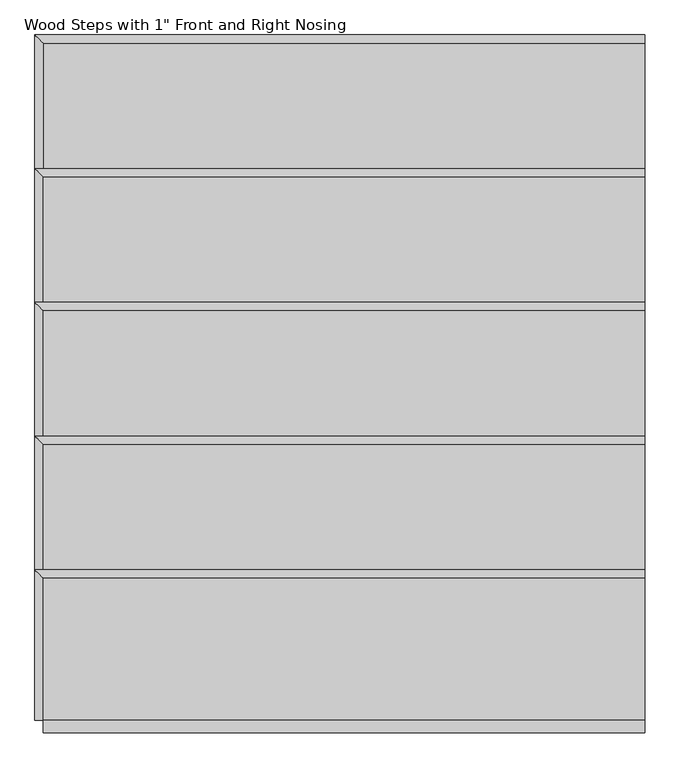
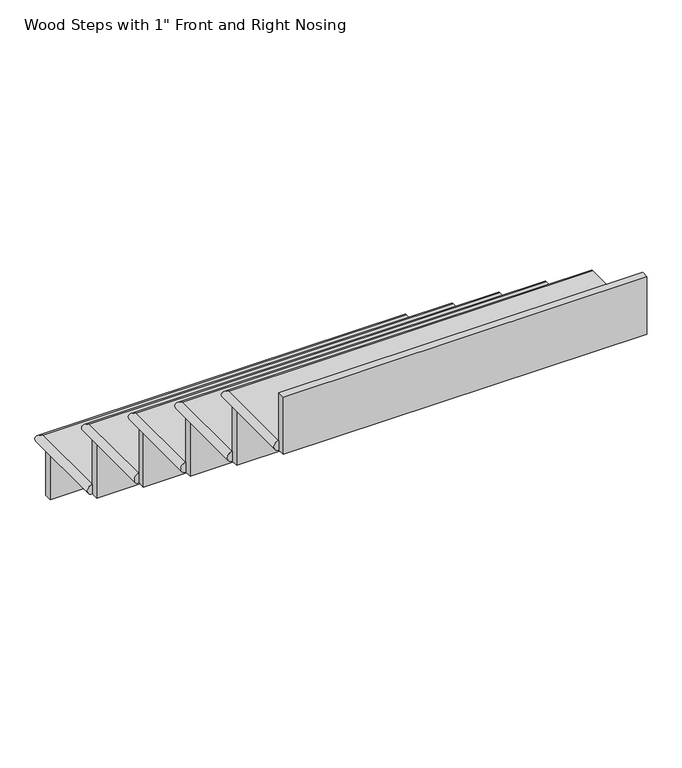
"""IFC4 building model written with IfcOpenShell, lengths in millimetres: stair flight geometry."""

from ifc_helpers import new_model, si_unit, frame, origin, place, context, project, spatial, circle_curve, ellipse_curve, faceted_brep, source, transform, mapped, element, save
from ifc_brep_helpers import plane_surface, cylinder_surface, advanced_brep


def stair_flight_c3c6c346(model_context):
    return source(origin(), model_context, "Body", "SolidModel", [
        advanced_brep(
        [(-6201.7730992, -1298.7952303, 1803.4), (-6201.7730992, -1298.7952303, 1828.8), (-6201.7730992, -1082.8952303, 1828.8), (-6201.7730992, -1082.8952303, 1803.4), (-5287.3730992, -1082.8952303, 1828.8), (-5287.3730992, -1082.8952303, 1803.4), (-5287.3730992, -1298.7952303, 1828.8), (-5287.3730992, -1298.7952303, 1803.4)],
        [
            (0, 1, circle_curve(frame((-6201.7730992, -1298.7952303, 1816.1), z_axis=(0.0, 1.0, 0.0), x_axis=(1.0, 0.0, 0.0)), 12.7)),
            (1, 2),
            (2, 3, ellipse_curve(frame((-6201.7730992, -1082.8952303, 1816.1), z_axis=(-0.7071067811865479, -0.7071067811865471, 0.0), x_axis=(0.7071067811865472, -0.7071067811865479, 0.0)), 17.9605122, 12.7)),
            (3, 0),
            (2, 4),
            (4, 5, circle_curve(frame((-5287.3730992, -1082.8952303, 1816.1), z_axis=(-1.0, 0.0, 0.0), x_axis=(0.0, -1.0, 0.0)), 12.7)),
            (5, 3),
            (6, 4),
            (1, 6),
            (5, 7),
            (7, 0),
            (6, 7),
        ],
        [
            cylinder_surface(frame((-6201.7730992, -1298.7952303, 1816.1), z_axis=(0.0, -1.0, 0.0), x_axis=(1.0, 0.0, 0.0)), 12.7),
            cylinder_surface(frame((-6201.7730992, -1082.8952303, 1816.1), z_axis=(-1.0, 0.0, 0.0), x_axis=(0.0, -1.0, 0.0)), 12.7),
            plane_surface(frame((-5287.3730992, -1070.1952303, 1828.8), z_axis=(0.0, 0.0, 1.0), x_axis=(0.0, 1.0, 0.0))),
            plane_surface(frame((-5287.3730992, -1070.1952303, 1803.4), z_axis=(0.0, 0.0, -1.0), x_axis=(0.0, -1.0, 0.0))),
            plane_surface(frame((-5287.3730992, -1298.7952303, 1828.8), z_axis=(1.0, 0.0, 0.0), x_axis=(0.0, 0.0, -1.0))),
            plane_surface(frame((-6201.7730992, -1298.7952303, 1828.8), z_axis=(0.0, -1.0, 0.0), x_axis=(0.0, 0.0, -1.0))),
        ],
        [
            (0, [[1, 2, 3, 4]]),
            (1, [[-3, 5, 6, 7]]),
            (2, [[8, -5, -2, 9]]),
            (3, [[10, 11, -4, -7]]),
            (4, [[-8, 12, -10, -6]]),
            (5, [[-9, -1, -11, -12]]),
        ],
    ),
        faceted_brep([(-6201.7730992, -1095.5952303, 1803.4), (-6201.7730992, -1095.5952303, 1676.4), (-6201.7730992, -1114.6452303, 1676.4), (-6201.7730992, -1114.6452303, 1803.4), (-5287.3730992, -1095.5952303, 1803.4), (-5287.3730992, -1114.6452303, 1803.4), (-5287.3730992, -1114.6452303, 1676.4), (-5287.3730992, -1095.5952303, 1676.4)], [[[0, 1, 2, 3]], [[4, 5, 6, 7]], [[1, 0, 4, 7]], [[2, 1, 7, 6]], [[3, 2, 6, 5]], [[0, 3, 5, 4]]]),
        faceted_brep([(-6201.7730992, -1298.7952303, 1955.8), (-6201.7730992, -1298.7952303, 1803.4), (-6201.7730992, -1317.8452303, 1803.4), (-6201.7730992, -1317.8452303, 1955.8), (-5287.3730992, -1298.7952303, 1955.8), (-5287.3730992, -1317.8452303, 1955.8), (-5287.3730992, -1317.8452303, 1803.4), (-5287.3730992, -1298.7952303, 1803.4)], [[[0, 1, 2, 3]], [[4, 5, 6, 7]], [[1, 0, 4, 7]], [[2, 1, 7, 6]], [[3, 2, 6, 5]], [[0, 3, 5, 4]]]),
        advanced_brep(
        [(-5287.3730992, -1501.9952303, 1981.2), (-5287.3730992, -1286.0952303, 1981.2), (-6201.7730992, -1286.0952303, 1981.2), (-6201.7730992, -1501.9952303, 1981.2), (-5287.3730992, -1286.0952303, 1955.8), (-5287.3730992, -1501.9952303, 1955.8), (-6201.7730992, -1501.9952303, 1955.8), (-6201.7730992, -1286.0952303, 1955.8)],
        [
            (0, 1),
            (1, 2),
            (2, 3),
            (3, 0),
            (4, 5),
            (5, 6),
            (6, 7),
            (7, 4),
            (0, 5),
            (4, 1, circle_curve(frame((-5287.3730992, -1286.0952303, 1968.5), z_axis=(1.0, 0.0, 0.0), x_axis=(0.0, -1.0, 0.0)), 12.7)),
            (3, 6, circle_curve(frame((-6201.7730992, -1501.9952303, 1968.5), z_axis=(0.0, -1.0, 0.0), x_axis=(1.0, 0.0, 0.0)), 12.7)),
            (2, 7, ellipse_curve(frame((-6201.7730992, -1286.0952303, 1968.5), z_axis=(-0.7071067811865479, -0.7071067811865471, 0.0), x_axis=(0.7071067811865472, -0.7071067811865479, 0.0)), 17.9605122, 12.7)),
        ],
        [
            plane_surface(frame((-5287.3730992, -1070.1952303, 1981.2), z_axis=(0.0, 0.0, 1.0), x_axis=(0.0, 1.0, 0.0))),
            plane_surface(frame((-5287.3730992, -1070.1952303, 1955.8), z_axis=(0.0, 0.0, -1.0), x_axis=(0.0, -1.0, 0.0))),
            plane_surface(frame((-5287.3730992, -1501.9952303, 1981.2), z_axis=(1.0, 0.0, 0.0), x_axis=(0.0, 0.0, -1.0))),
            plane_surface(frame((-6201.7730992, -1501.9952303, 1981.2), z_axis=(0.0, -1.0, 0.0), x_axis=(0.0, 0.0, -1.0))),
            cylinder_surface(frame((-6201.7730992, -1501.9952303, 1968.5), z_axis=(0.0, -1.0, 0.0), x_axis=(1.0, 0.0, 0.0)), 12.7),
            cylinder_surface(frame((-6201.7730992, -1286.0952303, 1968.5), z_axis=(-1.0, 0.0, 0.0), x_axis=(0.0, -1.0, 0.0)), 12.7),
        ],
        [
            (0, [[1, 2, 3, 4]]),
            (1, [[5, 6, 7, 8]]),
            (2, [[-1, 9, -5, 10]]),
            (3, [[-4, 11, -6, -9]]),
            (4, [[-11, -3, 12, -7]]),
            (5, [[-12, -2, -10, -8]]),
        ],
    ),
        faceted_brep([(-6201.7730992, -1501.9952303, 2108.2), (-6201.7730992, -1501.9952303, 1955.8), (-6201.7730992, -1521.0452303, 1955.8), (-6201.7730992, -1521.0452303, 2108.2), (-5287.3730992, -1501.9952303, 2108.2), (-5287.3730992, -1521.0452303, 2108.2), (-5287.3730992, -1521.0452303, 1955.8), (-5287.3730992, -1501.9952303, 1955.8)], [[[0, 1, 2, 3]], [[4, 5, 6, 7]], [[1, 0, 4, 7]], [[2, 1, 7, 6]], [[3, 2, 6, 5]], [[0, 3, 5, 4]]]),
        advanced_brep(
        [(-5287.3730992, -1705.1952303, 2133.6), (-5287.3730992, -1489.2952303, 2133.6), (-6201.7730992, -1489.2952303, 2133.6), (-6201.7730992, -1705.1952303, 2133.6), (-5287.3730992, -1489.2952303, 2108.2), (-5287.3730992, -1705.1952303, 2108.2), (-6201.7730992, -1705.1952303, 2108.2), (-6201.7730992, -1489.2952303, 2108.2)],
        [
            (0, 1),
            (1, 2),
            (2, 3),
            (3, 0),
            (4, 5),
            (5, 6),
            (6, 7),
            (7, 4),
            (0, 5),
            (4, 1, circle_curve(frame((-5287.3730992, -1489.2952303, 2120.9), z_axis=(1.0, 0.0, 0.0), x_axis=(0.0, -1.0, 0.0)), 12.7)),
            (3, 6, circle_curve(frame((-6201.7730992, -1705.1952303, 2120.9), z_axis=(0.0, -1.0, 0.0), x_axis=(1.0, 0.0, 0.0)), 12.7)),
            (2, 7, ellipse_curve(frame((-6201.7730992, -1489.2952303, 2120.9), z_axis=(-0.7071067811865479, -0.7071067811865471, 0.0), x_axis=(0.7071067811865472, -0.7071067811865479, 0.0)), 17.9605122, 12.7)),
        ],
        [
            plane_surface(frame((-5287.3730992, -1273.3952303, 2133.6), z_axis=(0.0, 0.0, 1.0), x_axis=(0.0, 1.0, 0.0))),
            plane_surface(frame((-5287.3730992, -1273.3952303, 2108.2), z_axis=(0.0, 0.0, -1.0), x_axis=(0.0, -1.0, 0.0))),
            plane_surface(frame((-5287.3730992, -1705.1952303, 2133.6), z_axis=(1.0, 0.0, 0.0), x_axis=(0.0, 0.0, -1.0))),
            plane_surface(frame((-6201.7730992, -1705.1952303, 2133.6), z_axis=(0.0, -1.0, 0.0), x_axis=(0.0, 0.0, -1.0))),
            cylinder_surface(frame((-6201.7730992, -1705.1952303, 2120.9), z_axis=(0.0, -1.0, 0.0), x_axis=(1.0, 0.0, 0.0)), 12.7),
            cylinder_surface(frame((-6201.7730992, -1489.2952303, 2120.9), z_axis=(-1.0, 0.0, 0.0), x_axis=(0.0, -1.0, 0.0)), 12.7),
        ],
        [
            (0, [[1, 2, 3, 4]]),
            (1, [[5, 6, 7, 8]]),
            (2, [[-1, 9, -5, 10]]),
            (3, [[-4, 11, -6, -9]]),
            (4, [[-11, -3, 12, -7]]),
            (5, [[-12, -2, -10, -8]]),
        ],
    ),
        faceted_brep([(-6201.7730992, -1705.1952303, 2260.6), (-6201.7730992, -1705.1952303, 2108.2), (-6201.7730992, -1724.2452303, 2108.2), (-6201.7730992, -1724.2452303, 2260.6), (-5287.3730992, -1705.1952303, 2260.6), (-5287.3730992, -1724.2452303, 2260.6), (-5287.3730992, -1724.2452303, 2108.2), (-5287.3730992, -1705.1952303, 2108.2)], [[[0, 1, 2, 3]], [[4, 5, 6, 7]], [[1, 0, 4, 7]], [[2, 1, 7, 6]], [[3, 2, 6, 5]], [[0, 3, 5, 4]]]),
        advanced_brep(
        [(-5287.3730992, -1908.3952303, 2286.0), (-5287.3730992, -1692.4952303, 2286.0), (-6201.7730992, -1692.4952303, 2286.0), (-6201.7730992, -1908.3952303, 2286.0), (-5287.3730992, -1692.4952303, 2260.6), (-5287.3730992, -1908.3952303, 2260.6), (-6201.7730992, -1908.3952303, 2260.6), (-6201.7730992, -1692.4952303, 2260.6)],
        [
            (0, 1),
            (1, 2),
            (2, 3),
            (3, 0),
            (4, 5),
            (5, 6),
            (6, 7),
            (7, 4),
            (0, 5),
            (4, 1, circle_curve(frame((-5287.3730992, -1692.4952303, 2273.3), z_axis=(1.0, 0.0, 0.0), x_axis=(0.0, -1.0, 0.0)), 12.7)),
            (3, 6, circle_curve(frame((-6201.7730992, -1908.3952303, 2273.3), z_axis=(0.0, -1.0, 0.0), x_axis=(1.0, 0.0, 0.0)), 12.7)),
            (2, 7, ellipse_curve(frame((-6201.7730992, -1692.4952303, 2273.3), z_axis=(-0.7071067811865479, -0.7071067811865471, 0.0), x_axis=(0.7071067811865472, -0.7071067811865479, 0.0)), 17.9605122, 12.7)),
        ],
        [
            plane_surface(frame((-5287.3730992, -1476.5952303, 2286.0), z_axis=(0.0, 0.0, 1.0), x_axis=(0.0, 1.0, 0.0))),
            plane_surface(frame((-5287.3730992, -1476.5952303, 2260.6), z_axis=(0.0, 0.0, -1.0), x_axis=(0.0, -1.0, 0.0))),
            plane_surface(frame((-5287.3730992, -1908.3952303, 2286.0), z_axis=(1.0, 0.0, 0.0), x_axis=(0.0, 0.0, -1.0))),
            plane_surface(frame((-6201.7730992, -1908.3952303, 2286.0), z_axis=(0.0, -1.0, 0.0), x_axis=(0.0, 0.0, -1.0))),
            cylinder_surface(frame((-6201.7730992, -1908.3952303, 2273.3), z_axis=(0.0, -1.0, 0.0), x_axis=(1.0, 0.0, 0.0)), 12.7),
            cylinder_surface(frame((-6201.7730992, -1692.4952303, 2273.3), z_axis=(-1.0, 0.0, 0.0), x_axis=(0.0, -1.0, 0.0)), 12.7),
        ],
        [
            (0, [[1, 2, 3, 4]]),
            (1, [[5, 6, 7, 8]]),
            (2, [[-1, 9, -5, 10]]),
            (3, [[-4, 11, -6, -9]]),
            (4, [[-11, -3, 12, -7]]),
            (5, [[-12, -2, -10, -8]]),
        ],
    ),
        faceted_brep([(-6201.7730992, -1908.3952303, 2413.0), (-6201.7730992, -1908.3952303, 2260.6), (-6201.7730992, -1927.4452303, 2260.6), (-6201.7730992, -1927.4452303, 2413.0), (-5287.3730992, -1908.3952303, 2413.0), (-5287.3730992, -1927.4452303, 2413.0), (-5287.3730992, -1927.4452303, 2260.6), (-5287.3730992, -1908.3952303, 2260.6)], [[[0, 1, 2, 3]], [[4, 5, 6, 7]], [[1, 0, 4, 7]], [[2, 1, 7, 6]], [[3, 2, 6, 5]], [[0, 3, 5, 4]]]),
        faceted_brep([(-6201.7730992, -2111.5952303, 2565.4), (-6201.7730992, -2111.5952303, 2413.0), (-6201.7730992, -2130.6452303, 2413.0), (-6201.7730992, -2130.6452303, 2565.4), (-5287.3730992, -2111.5952303, 2565.4), (-5287.3730992, -2130.6452303, 2565.4), (-5287.3730992, -2130.6452303, 2413.0), (-5287.3730992, -2111.5952303, 2413.0)], [[[0, 1, 2, 3]], [[4, 5, 6, 7]], [[1, 0, 4, 7]], [[2, 1, 7, 6]], [[3, 2, 6, 5]], [[0, 3, 5, 4]]]),
        advanced_brep(
        [(-5287.3730992, -2111.5952303, 2438.4), (-5287.3730992, -1895.6952303, 2438.4), (-6201.7730992, -1895.6952303, 2438.4), (-6201.7730992, -2111.5952303, 2438.4), (-5287.3730992, -1895.6952303, 2413.0), (-5287.3730992, -2111.5952303, 2413.0), (-6201.7730992, -2111.5952303, 2413.0), (-6201.7730992, -1895.6952303, 2413.0)],
        [
            (0, 1),
            (1, 2),
            (2, 3),
            (3, 0),
            (4, 5),
            (5, 6),
            (6, 7),
            (7, 4),
            (0, 5),
            (4, 1, circle_curve(frame((-5287.3730992, -1895.6952303, 2425.7), z_axis=(1.0, 0.0, 0.0), x_axis=(0.0, -1.0, 0.0)), 12.7)),
            (3, 6, circle_curve(frame((-6201.7730992, -2111.5952303, 2425.7), z_axis=(0.0, -1.0, 0.0), x_axis=(1.0, 0.0, 0.0)), 12.7)),
            (2, 7, ellipse_curve(frame((-6201.7730992, -1895.6952303, 2425.7), z_axis=(-0.7071067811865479, -0.7071067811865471, 0.0), x_axis=(0.7071067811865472, -0.7071067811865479, 0.0)), 17.9605122, 12.7)),
        ],
        [
            plane_surface(frame((-5287.3730992, -1679.7952303, 2438.4), z_axis=(0.0, 0.0, 1.0), x_axis=(0.0, 1.0, 0.0))),
            plane_surface(frame((-5287.3730992, -1679.7952303, 2413.0), z_axis=(0.0, 0.0, -1.0), x_axis=(0.0, -1.0, 0.0))),
            plane_surface(frame((-5287.3730992, -2111.5952303, 2438.4), z_axis=(1.0, 0.0, 0.0), x_axis=(0.0, 0.0, -1.0))),
            plane_surface(frame((-6201.7730992, -2111.5952303, 2438.4), z_axis=(0.0, -1.0, 0.0), x_axis=(0.0, 0.0, -1.0))),
            cylinder_surface(frame((-6201.7730992, -2111.5952303, 2425.7), z_axis=(0.0, -1.0, 0.0), x_axis=(1.0, 0.0, 0.0)), 12.7),
            cylinder_surface(frame((-6201.7730992, -1895.6952303, 2425.7), z_axis=(-1.0, 0.0, 0.0), x_axis=(0.0, -1.0, 0.0)), 12.7),
        ],
        [
            (0, [[1, 2, 3, 4]]),
            (1, [[5, 6, 7, 8]]),
            (2, [[-1, 9, -5, 10]]),
            (3, [[-4, 11, -6, -9]]),
            (4, [[-11, -3, 12, -7]]),
            (5, [[-12, -2, -10, -8]]),
        ],
    ),
    ])


if __name__ == "__main__":
    model = new_model("IFC4")
    model_context = context("Model", 3, world=origin())
    ifc_project = project(units=[si_unit("LENGTHUNIT", "METRE", prefix="MILLI")], contexts=[model_context])
    site = spatial("IfcSite", under=ifc_project)
    building = spatial("IfcBuilding", under=site)
    placement = place(None, origin())
    stair_flight_shape = stair_flight_c3c6c346(model_context)
    element("IfcStairFlight", 1, ObjectType="Wood Steps with 1\" Front and Right Nosing", at=placement, inside=building, context=model_context, shape_type="MappedRepresentation", body=[
        mapped(stair_flight_shape, transform((0.0, 0.0, 0.0), x_axis=(1.0, 0.0, 0.0), y_axis=(0.0, 1.0, 0.0), z_axis=(0.0, 0.0, 1.0))),
    ])
    save(model, "model.ifc")
